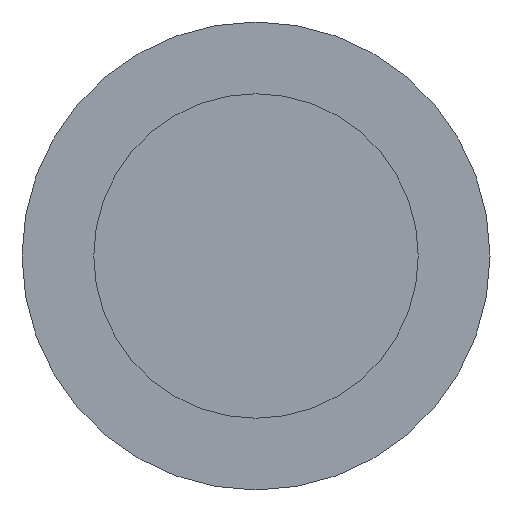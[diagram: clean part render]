
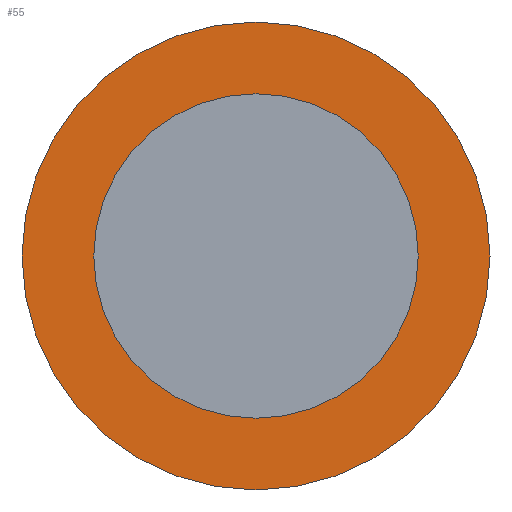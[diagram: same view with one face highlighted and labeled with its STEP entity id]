
A CAD part, left-side view. The second image highlights one B-rep face of the part: STEP entity #55.
In plain terms, the highlighted planar face has unit normal (-1, 0, 0).
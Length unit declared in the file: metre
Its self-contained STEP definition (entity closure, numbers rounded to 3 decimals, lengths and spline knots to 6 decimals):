
#13=PLANE('',#75);
#18=ORIENTED_EDGE('',*,*,#25,.T.);
#19=ORIENTED_EDGE('',*,*,#24,.F.);
#24=EDGE_CURVE('',#28,#28,#32,.T.);
#25=EDGE_CURVE('',#29,#29,#33,.T.);
#28=VERTEX_POINT('',#105);
#29=VERTEX_POINT('',#109);
#32=CIRCLE('',#73,0.001529);
#33=CIRCLE('',#76,0.00106);
#38=EDGE_LOOP('',(#18));
#39=EDGE_LOOP('',(#19));
#46=FACE_BOUND('',#38,.T.);
#47=FACE_BOUND('',#39,.T.);
#55=ADVANCED_FACE('',(#46,#47),#13,.F.);
#73=AXIS2_PLACEMENT_3D('',#104,#86,#87);
#75=AXIS2_PLACEMENT_3D('',#107,#90,#91);
#76=AXIS2_PLACEMENT_3D('',#108,#92,#93);
#86=DIRECTION('',(1.,0.,0.));
#87=DIRECTION('',(0.,0.,-1.));
#90=DIRECTION('',(1.,0.,0.));
#91=DIRECTION('',(0.,1.,0.));
#92=DIRECTION('',(1.,0.,0.));
#93=DIRECTION('',(0.,0.,-1.));
#104=CARTESIAN_POINT('',(0.,-0.229009,0.179731));
#105=CARTESIAN_POINT('',(0.,-0.229009,0.178202));
#107=CARTESIAN_POINT('',(0.,-0.229009,0.179731));
#108=CARTESIAN_POINT('',(0.,-0.229009,0.179731));
#109=CARTESIAN_POINT('',(0.,-0.229009,0.178671));
